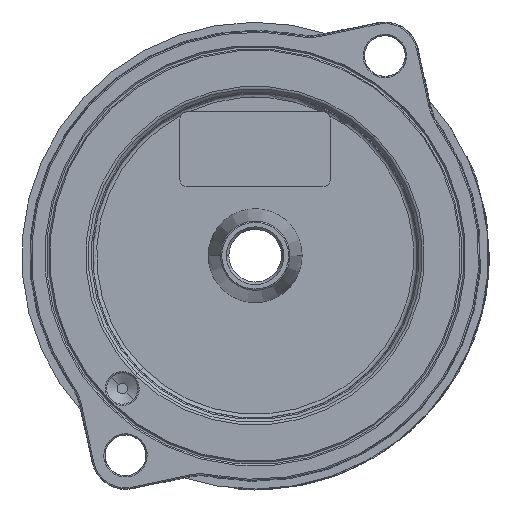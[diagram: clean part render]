
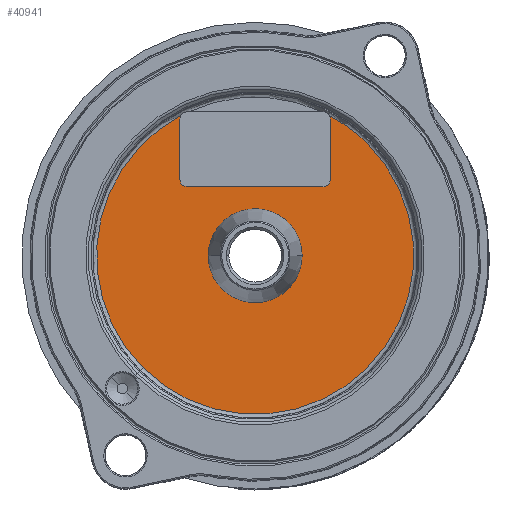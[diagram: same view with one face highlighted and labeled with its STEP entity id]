
A CAD part, front view. The second image highlights one B-rep face of the part: STEP entity #40941.
In plain terms, the highlighted planar face has unit normal (0, -1, 0).
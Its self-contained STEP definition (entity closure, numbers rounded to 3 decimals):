
#65=CARTESIAN_POINT('',(0.,-3.25,0.));
#66=DIRECTION('',(0.,1.,0.));
#67=DIRECTION('',(-1.,0.,0.));
#68=AXIS2_PLACEMENT_3D('',#65,#66,#67);
#70=DIRECTION('',(0.,0.,1.));
#71=VECTOR('',#70,4.8);
#72=CARTESIAN_POINT('',(-6.,-3.25,6.1));
#73=LINE('',#72,#71);
#74=CARTESIAN_POINT('',(-5.4,-3.25,6.1));
#75=DIRECTION('',(0.,-1.,0.));
#76=DIRECTION('',(-1.,0.,0.));
#77=AXIS2_PLACEMENT_3D('',#74,#75,#76);
#79=DIRECTION('',(-1.,0.,0.));
#80=VECTOR('',#79,10.8);
#81=CARTESIAN_POINT('',(5.4,-3.25,5.5));
#82=LINE('',#81,#80);
#83=CARTESIAN_POINT('',(5.4,-3.25,6.1));
#84=DIRECTION('',(0.,-1.,0.));
#85=DIRECTION('',(0.,0.,-1.));
#86=AXIS2_PLACEMENT_3D('',#83,#84,#85);
#88=DIRECTION('',(0.,0.,-1.));
#89=VECTOR('',#88,4.8);
#90=CARTESIAN_POINT('',(6.,-3.25,10.9));
#91=LINE('',#90,#89);
#92=CARTESIAN_POINT('',(5.4,-3.25,10.9));
#93=DIRECTION('',(0.,-1.,0.));
#94=DIRECTION('',(1.,0.,0.));
#95=AXIS2_PLACEMENT_3D('',#92,#93,#94);
#97=CARTESIAN_POINT('',(0.,-3.25,
0.));
#98=DIRECTION('',(0.,-1.,0.));
#99=DIRECTION('',(0.707,0.,0.707));
#100=AXIS2_PLACEMENT_3D('',#97,#98,#99);
#102=CARTESIAN_POINT('',(0.,-3.25,
0.));
#103=DIRECTION('',(0.,-1.,0.));
#104=DIRECTION('',(-0.707,0.,-0.707));
#105=AXIS2_PLACEMENT_3D('',#102,#103,#104);
#107=CARTESIAN_POINT('',(0.,-3.25,
0.));
#108=DIRECTION('',(0.,-1.,0.));
#109=DIRECTION('',(-0.469,0.,0.883));
#110=AXIS2_PLACEMENT_3D('',#107,#108,#109);
#112=CARTESIAN_POINT('',(-5.4,-3.25,10.9));
#113=DIRECTION('',(0.,-1.,0.));
#114=DIRECTION('',(-0.884,0.,0.468));
#115=AXIS2_PLACEMENT_3D('',#112,#113,#114);
#29087=CARTESIAN_POINT('',(0.,-3.25,0.));
#29088=DIRECTION('',(0.,1.,0.));
#29089=DIRECTION('',(1.,0.,0.));
#29090=AXIS2_PLACEMENT_3D('',#29087,#29088,#29089);
#38355=CARTESIAN_POINT('',(-8.95,-3.25,
-8.949));
#38356=CARTESIAN_POINT('',(8.95,-3.25,
8.949));
#38357=VERTEX_POINT('',#38355);
#38358=VERTEX_POINT('',#38356);
#38489=CARTESIAN_POINT('',(-3.75,-3.25,0.));
#38490=CARTESIAN_POINT('',(3.75,-3.25,0.));
#38491=VERTEX_POINT('',#38489);
#38492=VERTEX_POINT('',#38490);
#40217=CARTESIAN_POINT('',(-6.,-3.25,
6.1));
#40218=CARTESIAN_POINT('',(-6.,-3.25,
10.9));
#40219=VERTEX_POINT('',#40217);
#40220=VERTEX_POINT('',#40218);
#40225=CARTESIAN_POINT('',(6.,-3.25,
10.9));
#40226=CARTESIAN_POINT('',(6.,-3.25,
6.1));
#40227=VERTEX_POINT('',#40225);
#40228=VERTEX_POINT('',#40226);
#40229=CARTESIAN_POINT('',(5.4,-3.25,
5.5));
#40230=CARTESIAN_POINT('',(-5.4,-3.25,
5.5));
#40231=VERTEX_POINT('',#40229);
#40232=VERTEX_POINT('',#40230);
#40233=CARTESIAN_POINT('',(-5.93,-3.25,
11.181));
#40234=VERTEX_POINT('',#40233);
#40235=CARTESIAN_POINT('',(5.93,-3.25,
11.181));
#40236=VERTEX_POINT('',#40235);
#40909=CARTESIAN_POINT('',(0.,-3.25,
0.));
#40910=DIRECTION('',(0.,-1.,0.));
#40911=DIRECTION('',(-0.707,0.,-0.707));
#40912=AXIS2_PLACEMENT_3D('',#40909,#40910,#40911);
#40913=PLANE('',#40912);
#40915=ORIENTED_EDGE('',*,*,#40914,.F.);
#40917=ORIENTED_EDGE('',*,*,#40916,.T.);
#40919=ORIENTED_EDGE('',*,*,#40918,.F.);
#40921=ORIENTED_EDGE('',*,*,#40920,.T.);
#40923=ORIENTED_EDGE('',*,*,#40922,.F.);
#40925=ORIENTED_EDGE('',*,*,#40924,.T.);
#40927=ORIENTED_EDGE('',*,*,#40926,.F.);
#40929=ORIENTED_EDGE('',*,*,#40928,.F.);
#40931=ORIENTED_EDGE('',*,*,#40930,.F.);
#40933=ORIENTED_EDGE('',*,*,#40932,.T.);
#40934=EDGE_LOOP('',(#40915,#40917,#40919,#40921,#40923,#40925,#40927,#40929,
#40931,#40933));
#40935=FACE_OUTER_BOUND('',#40934,.F.);
#40936=ORIENTED_EDGE('',*,*,#40891,.F.);
#40938=ORIENTED_EDGE('',*,*,#40937,.F.);
#40939=EDGE_LOOP('',(#40936,#40938));
#40940=FACE_BOUND('',#40939,.F.);
#69=CIRCLE('',#68,3.75);
#78=CIRCLE('',#77,0.6);
#87=CIRCLE('',#86,0.6);
#96=CIRCLE('',#95,0.6);
#101=CIRCLE('',#100,12.656);
#106=CIRCLE('',#105,12.656);
#111=CIRCLE('',#110,12.656);
#116=CIRCLE('',#115,0.6);
#29091=CIRCLE('',#29090,3.75);
#40891=EDGE_CURVE('',#38491,#38492,#69,.T.);
#40914=EDGE_CURVE('',#40219,#40220,#73,.T.);
#40916=EDGE_CURVE('',#40219,#40232,#78,.T.);
#40918=EDGE_CURVE('',#40231,#40232,#82,.T.);
#40920=EDGE_CURVE('',#40231,#40228,#87,.T.);
#40922=EDGE_CURVE('',#40227,#40228,#91,.T.);
#40924=EDGE_CURVE('',#40227,#40236,#96,.T.);
#40926=EDGE_CURVE('',#38358,#40236,#101,.T.);
#40928=EDGE_CURVE('',#38357,#38358,#106,.T.);
#40930=EDGE_CURVE('',#40234,#38357,#111,.T.);
#40932=EDGE_CURVE('',#40234,#40220,#116,.T.);
#40937=EDGE_CURVE('',#38492,#38491,#29091,.T.);
#40941=ADVANCED_FACE('',(#40935,#40940),#40913,.T.);
